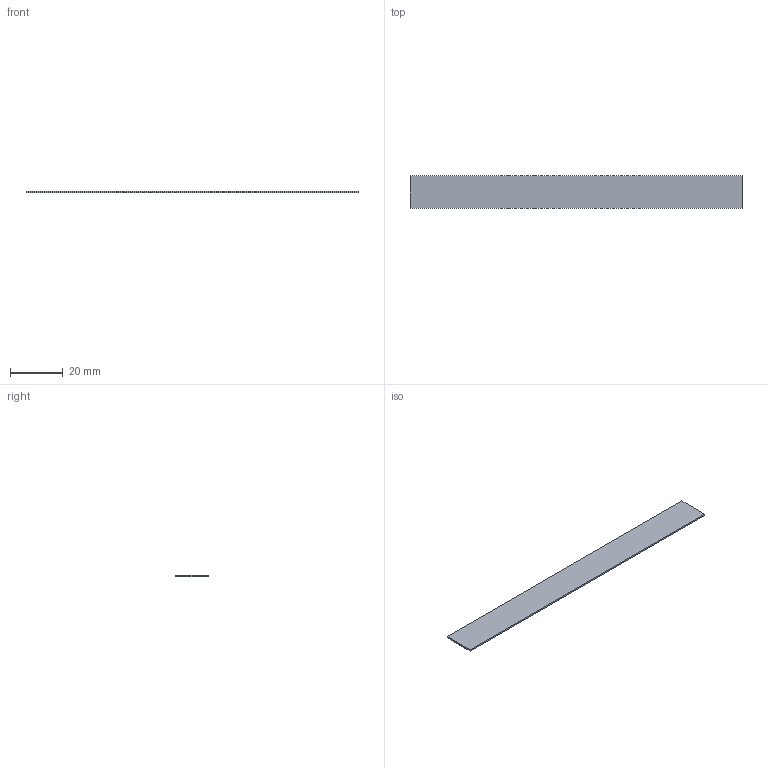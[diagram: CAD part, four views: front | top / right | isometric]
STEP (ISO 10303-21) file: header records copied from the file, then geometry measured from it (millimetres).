
FILE_DESCRIPTION(('Open CASCADE Model'),'2;1');
FILE_NAME('Open CASCADE Shape Model','2026-10-21T18:51:10',('Author'),( 'Open CASCADE'),'Open CASCADE STEP processor 8.0','build123d', 'Unknown');
FILE_SCHEMA(('AUTOMOTIVE_DESIGN { 1 0 10303 214 1 1 1 1 }'));
Length unit declared in the file: millimetre
Products named in the file (2): =>[0:1:1:2]; COMPOUND
Assembly tree (1 placements, depth 2):
  =>[0:1:1:2]
    COMPOUND
Bounding box: 125.85 x 12.3 x 0.6 mm (x, y, z)
Volume: 928.8 mm3; surface area: 3261.7 mm2
Topology: 1 solids, 1 shells, 6 faces, 12 edges, 8 vertices
Faces by surface type: plane 6
Entity records: 340 total; most frequent: CARTESIAN_POINT 52, DIRECTION 52, LINE 36, VECTOR 36, ORIENTED_EDGE 24, PCURVE 24, DEFINITIONAL_REPRESENTATION 24, EDGE_CURVE 12
